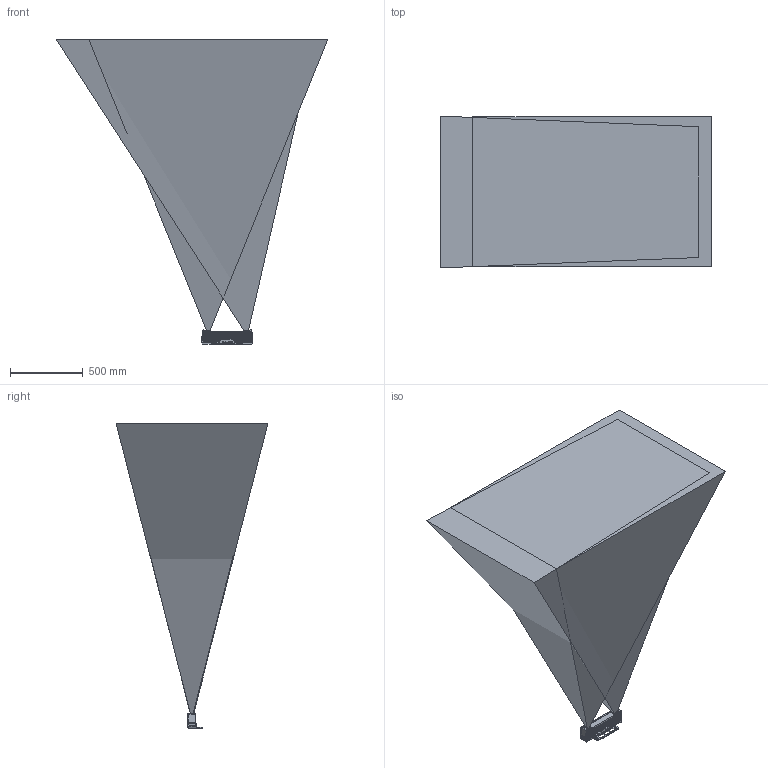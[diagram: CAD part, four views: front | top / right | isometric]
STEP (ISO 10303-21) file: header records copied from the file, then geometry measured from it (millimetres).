
FILE_DESCRIPTION (( 'STEP AP214' ), '1' );
FILE_NAME ('PRO M V4假蚾耀倰.STEP', '2022-06-08T10:08:03', ( '' ), ( '' ), 'SwSTEP 2.0', 'SolidWorks 2017', '' );
FILE_SCHEMA (( 'AUTOMOTIVE_DESIGN' ));
Length unit declared in the file: millimetre
Products named in the file (1): PRO M V4假蚾耀倰
Bounding box: 1862.37 x 1041.29 x 2090.2 mm (x, y, z)
Volume: 2303909754.2 mm3; surface area: 15202778.4 mm2
Topology: 23 solids, 23 shells, 1717 faces, 4367 edges, 2843 vertices
Faces by surface type: plane 944, cylinder 450, bspline 216, cone 103, torus 4
Full cylindrical faces by diameter (mm): 0.8 x16, 1.2 x8, 2.5 x8, 3 x8, 3.4 x8, 4.2 x10, 5 x4, 5.2 x8, 5.5 x4, 5.8 x2, 6 x6, 8.5 x4, 9 x2, 10 x4, 11.4 x2, 13 x2, 30 x1, 32.6 x1, 34 x2, 34.2 x2, 38.2 x2, 39 x2, 39.2 x2
Entity records: 73259 total; most frequent: CARTESIAN_POINT 28449, ORIENTED_EDGE 8268, DIRECTION 7685, EDGE_CURVE 4134, VERTEX_POINT 2783, VECTOR 2643, LINE 2643, AXIS2_PLACEMENT_3D 2521
